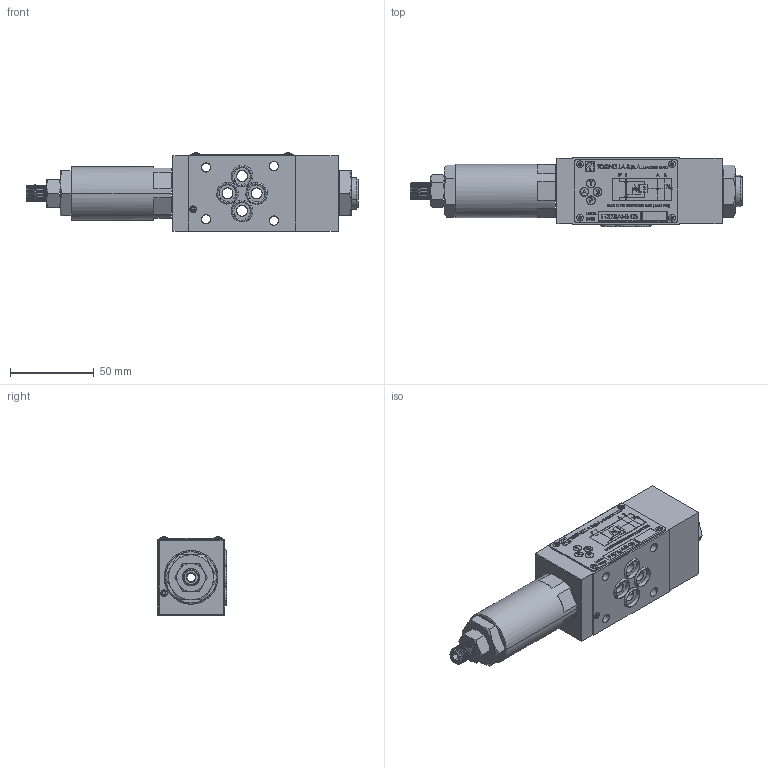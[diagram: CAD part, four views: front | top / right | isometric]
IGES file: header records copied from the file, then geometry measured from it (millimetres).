
Start section: SolidWorks IGES file using analytic representation for surfaces
Global section: file name: C:\Users\pc-te25\Desktop\ASSIEME 375-4-B-03.IGS; native system: SolidWorks 2018; preprocessor: SolidWorks 2018; author: pc-te25; date: 191203.145441; units: millimetre
Bounding box: 198.41 x 41.3 x 46.66 mm (x, y, z)
Surface area: 48240.6 mm2 (no closed solid volume)
Topology: 0 solids, 0 shells, 747 faces, 14274 edges, 14274 vertices
Faces by surface type: bspline 510, revolution 237
